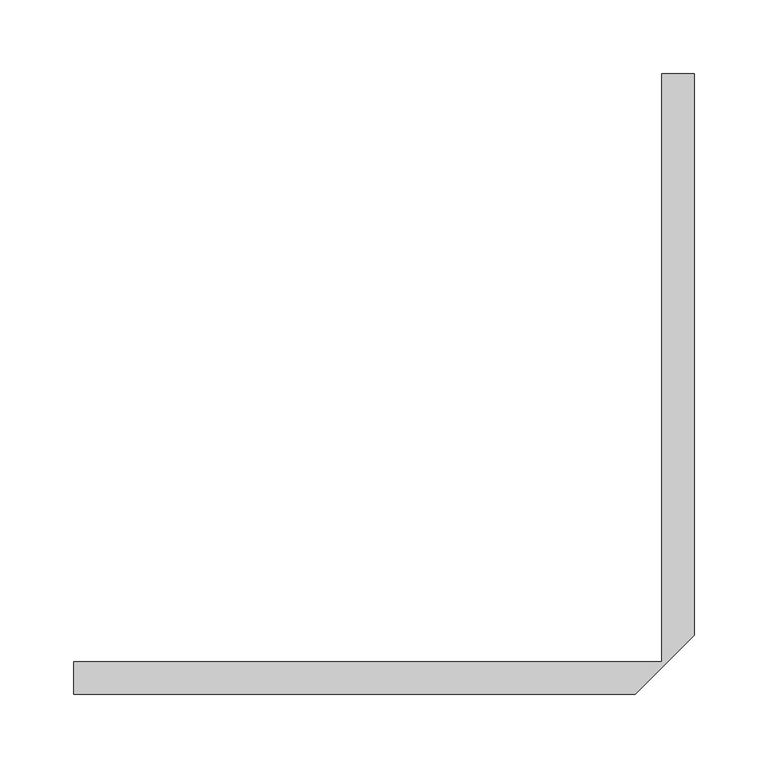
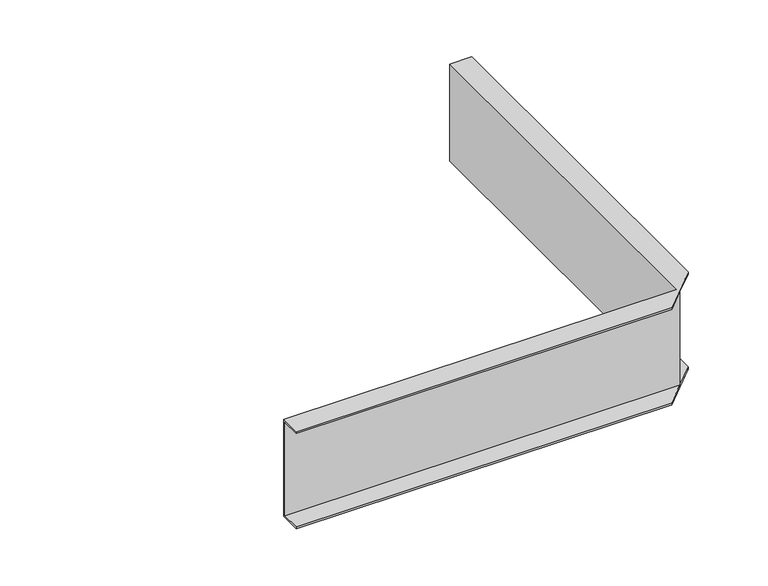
"""IFC4 building model written with IfcOpenShell, lengths in millimetres: cable carrier fitting geometry, BAKS_LDLS_CONN_Angle connector_LKSU : LKSUC_H100."""

from ifc_helpers import new_model, si_unit, origin, place, context, project, spatial, faceted_brep, source, transform, mapped, element, save


def cable_carrier_fitting_d9442e26(model_context):
    return source(origin(), model_context, "Body", "Brep", [
        faceted_brep([(-20.0, -20.0, 52.0), (20.0, 20.0, 52.0), (20.0, 400.0, 52.0), (-2.0, 400.0, 52.0), (-2.0, 2.0, 52.0), (-400.0, 2.0, 52.0), (-400.0, -20.0, 52.0), (-400.0, -20.0, 50.0), (-400.0, 0.0, 50.0), (0.0, 0.0, 50.0), (-20.0, -20.0, 50.0), (-400.0, 2.0, -52.0), (-400.0, -20.0, -52.0), (-400.0, -20.0, -50.0), (-400.0, 0.0, -50.0), (20.0, 20.0, 50.0), (20.0, 400.0, 50.0), (0.0, 400.0, 50.0), (0.0, 400.0, -50.0), (20.0, 400.0, -50.0), (20.0, 400.0, -52.0), (-2.0, 400.0, -52.0), (-2.0, 2.0, -52.0), (20.0, 20.0, -52.0), (-20.0, -20.0, -52.0), (0.0, 0.0, -50.0), (-20.0, -20.0, -50.0), (20.0, 20.0, -50.0)], [[[0, 1, 2, 3, 4, 5, 6]], [[7, 8, 9, 10]], [[7, 6, 5, 11, 12, 13, 14, 8]], [[9, 15, 1, 0, 10]], [[6, 7, 10, 0]], [[3, 2, 16, 17, 18, 19, 20, 21]], [[21, 22, 4, 3]], [[20, 23, 24, 12, 11, 22, 21]], [[25, 18, 17, 9]], [[22, 11, 5, 4]], [[8, 14, 25, 9]], [[26, 25, 14, 13]], [[13, 12, 24, 26]], [[26, 24, 23, 27, 25]], [[16, 15, 9, 17]], [[1, 15, 16, 2]], [[27, 19, 18, 25]], [[27, 23, 20, 19]]]),
    ])


if __name__ == "__main__":
    model = new_model("IFC4")
    model_context = context("Model", 3, world=origin())
    ifc_project = project(units=[si_unit("LENGTHUNIT", "METRE", prefix="MILLI")], contexts=[model_context])
    site = spatial("IfcSite", under=ifc_project)
    building = spatial("IfcBuilding", under=site)
    placement = place(None, origin())
    cable_carrier_fitting_shape = cable_carrier_fitting_d9442e26(model_context)
    element("IfcCableCarrierFitting", 1, ObjectType="BAKS_LDLS_CONN_Angle connector_LKSU : LKSUC_H100", at=placement, inside=building, context=model_context, shape_type="MappedRepresentation", body=[
        mapped(cable_carrier_fitting_shape, transform((0.0, 0.0, 0.0), x_axis=(1.0, 0.0, 0.0), y_axis=(0.0, 1.0, 0.0), z_axis=(0.0, 0.0, 1.0))),
    ])
    save(model, "model.ifc")
